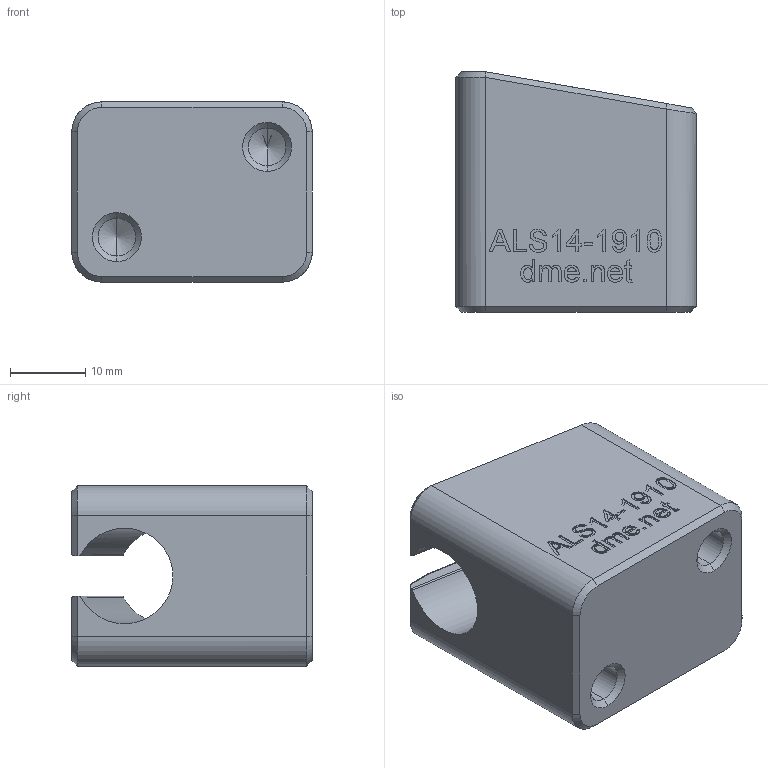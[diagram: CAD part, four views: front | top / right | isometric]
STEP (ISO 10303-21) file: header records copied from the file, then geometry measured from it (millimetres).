
FILE_DESCRIPTION (( 'STEP AP203' ), '1' );
FILE_NAME ('ALS14-1910.STEP', '2021-01-11T12:08:46', ( '' ), ( '' ), 'SwSTEP 2.0', 'SolidWorks 2020', '' );
FILE_SCHEMA (( 'CONFIG_CONTROL_DESIGN' ));
Length unit declared in the file: millimetre
Products named in the file (1): ALS14-1910
Bounding box: 32 x 32 x 24 mm (x, y, z)
Volume: 17683.5 mm3; surface area: 5660.4 mm2
Topology: 1 solids, 1 shells, 265 faces, 691 edges, 450 vertices
Faces by surface type: plane 144, bspline 92, cylinder 15, cone 14
Entity records: 12962 total; most frequent: CARTESIAN_POINT 7065, ORIENTED_EDGE 1374, DIRECTION 859, EDGE_CURVE 687, LINE 463, VECTOR 463, VERTEX_POINT 450, EDGE_LOOP 291
